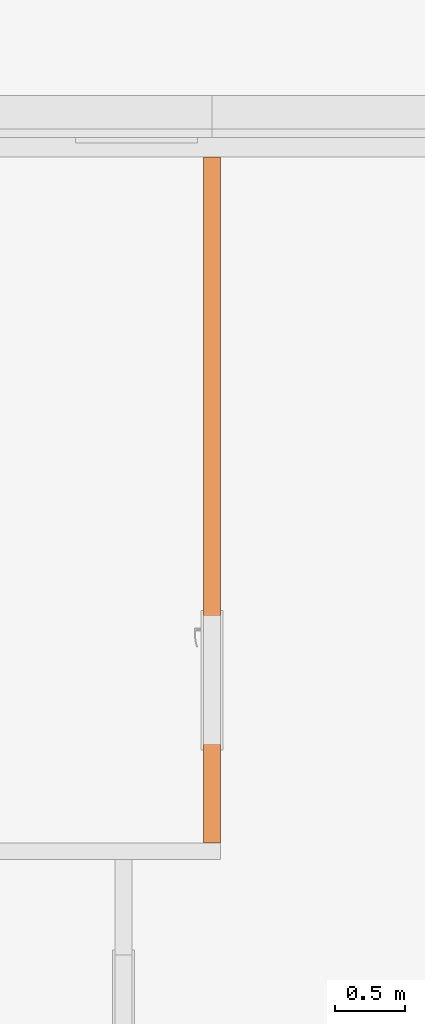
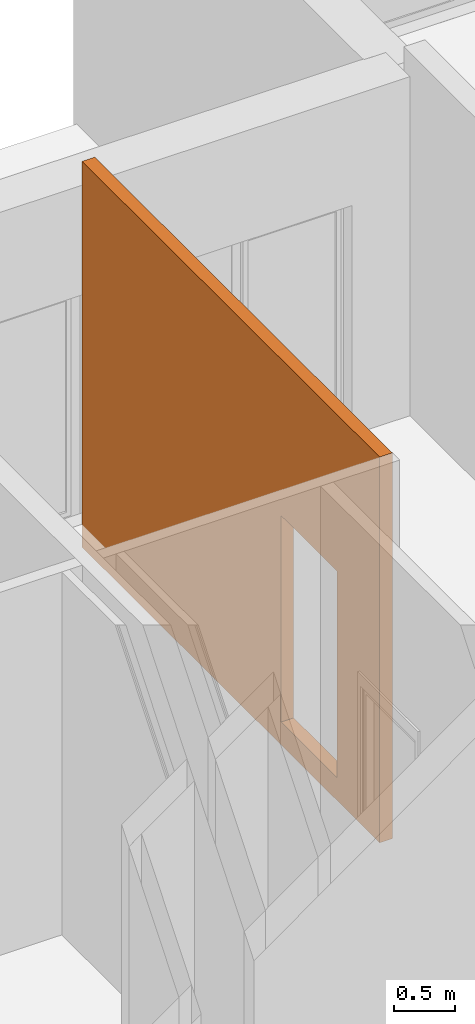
# One storey, part 22 of 46: 1 proxy, 1 opening.
"""IFC2X3 building model written with IfcOpenShell, lengths in millimetres."""

import ifcopenshell
import ifcopenshell.guid

model = None  # the IFC model being written
_history = None  # IfcOwnerHistory: only IFC2X3 demands one
_inside = {}  # id of a spatial element -> (the spatial element, [elements in it])
_under = {}  # id of a project, library or spatial element -> (it, [spatial elements below it])
_declared = {}  # id of a project -> (the project, [libraries it declares])
_typed = {}  # id of a type object -> (the type object, [elements of that type])
_made_of = {}  # id of a material, layer set ... -> (it, [elements and type objects made of it])


def new_model(schema):
    """Start an empty IFC model of exactly this schema.

    Asked for "IFC4X3", IfcOpenShell would pick the latest addendum, in which some entities
    have other attributes; the version numbers below select the first issue.
    IFC2X3 requires an IfcOwnerHistory on every rooted entity: one is made here for all.
    """
    global model, _history
    if schema == "IFC4X3":
        model = ifcopenshell.file(schema_version=(4, 3, 0, 0))
    else:
        model = ifcopenshell.file(schema=schema)
    _inside.clear()
    _under.clear()
    _declared.clear()
    _typed.clear()
    _made_of.clear()
    _history = None
    if model.schema == "IFC2X3":
        org = make("IfcOrganization", Name="unknown")
        user = make(
            "IfcPersonAndOrganization",
            ThePerson=make("IfcPerson", FamilyName="unknown"),
            TheOrganization=org,
        )
        app = make(
            "IfcApplication",
            ApplicationDeveloper=org,
            Version="unknown",
            ApplicationFullName="unknown",
            ApplicationIdentifier="unknown",
        )
        _history = make(
            "IfcOwnerHistory",
            OwningUser=user,
            OwningApplication=app,
            ChangeAction="ADDED",
            CreationDate=0,
        )
    return model


def make(cls, **values):
    """One entity of the class cls with the attributes given. An attribute that is None is left unset."""
    return model.create_entity(
        cls, **{name: value for name, value in values.items() if value is not None}
    )


def entity(cls, *values):
    """Any entity or typed value of the class cls, its attributes in the order of the schema. None: left unset."""
    e = model.create_entity(cls)
    for i, value in enumerate(values):
        if value is not None:
            e[i] = value
    return e


def rooted(cls, **values):
    """An entity with a GlobalId (a new one), such as an element, a storey or a relation."""
    return make(cls, GlobalId=ifcopenshell.guid.new(), OwnerHistory=_history, **values)


def si_unit(unit_type, name, prefix=None):
    """IfcSIUnit, for example si_unit("LENGTHUNIT", "METRE", prefix="MILLI")."""
    return make("IfcSIUnit", UnitType=unit_type, Prefix=prefix, Name=name)


def converted_unit(unit_type, name, factor, base, dimensions=None, offset=None):
    """IfcConversionBasedUnit, such as the inch: factor (a typed value) times the base unit."""
    return make(
        "IfcConversionBasedUnit"
        if offset is None
        else "IfcConversionBasedUnitWithOffset",
        ConversionOffset=offset,
        Dimensions=None
        if dimensions is None
        else entity("IfcDimensionalExponents", *dimensions),
        UnitType=unit_type,
        Name=name,
        ConversionFactor=make(
            "IfcMeasureWithUnit", ValueComponent=factor, UnitComponent=base
        ),
    )


def derived_unit(unit_type, elements):
    """IfcDerivedUnit: a product of units, each with its exponent."""
    return make(
        "IfcDerivedUnit",
        Elements=[
            make("IfcDerivedUnitElement", Unit=unit, Exponent=power)
            for unit, power in elements
        ],
        UnitType=unit_type,
    )


def money_unit(currency):
    """IfcMonetaryUnit."""
    return make("IfcMonetaryUnit", Currency=currency)


def assignment(units):
    """IfcUnitAssignment: the units of a project."""
    return None if units is None else make("IfcUnitAssignment", Units=units)


def point(xyz):
    """IfcCartesianPoint."""
    return None if xyz is None else make("IfcCartesianPoint", Coordinates=xyz)


def direction(xyz):
    """IfcDirection."""
    return None if xyz is None else make("IfcDirection", DirectionRatios=xyz)


def frame(location, z_axis=None, x_axis=None):
    """IfcAxis2Placement3D, a coordinate frame: its origin and axes. An axis left out is left unset."""
    return make(
        "IfcAxis2Placement3D",
        Location=point(location),
        Axis=direction(z_axis),
        RefDirection=direction(x_axis),
    )


def frame_2d(location, x_axis=None):
    """IfcAxis2Placement2D, a coordinate frame in the plane: its origin and x axis."""
    return make(
        "IfcAxis2Placement2D", Location=point(location), RefDirection=direction(x_axis)
    )


def origin_with_axes():
    """The frame at (0, 0, 0) with the z axis (0, 0, 1) and the x axis (1, 0, 0) written out."""
    return frame((0.0, 0.0, 0.0), z_axis=(0.0, 0.0, 1.0), x_axis=(1.0, 0.0, 0.0))


def origin_2d_with_axis():
    """The frame at (0, 0) in the plane with the x axis (1, 0) written out."""
    return frame_2d((0.0, 0.0), x_axis=(1.0, 0.0))


def place(relative_to, where):
    """IfcLocalPlacement: puts the frame where relative to a parent placement (None: the world)."""
    return make(
        "IfcLocalPlacement", PlacementRelTo=relative_to, RelativePlacement=where
    )


def context(
    kind, dimensions, precision=None, world=None, true_north=None, identifier=None
):
    """IfcGeometricRepresentationContext, for example the 3D "Model" context."""
    return make(
        "IfcGeometricRepresentationContext",
        ContextIdentifier=identifier,
        ContextType=kind,
        CoordinateSpaceDimension=dimensions,
        Precision=precision,
        WorldCoordinateSystem=world,
        TrueNorth=true_north,
    )


def subcontext(parent, identifier, kind, view, scale=None):
    """IfcGeometricRepresentationSubContext, for example "Body" below "Model"."""
    return make(
        "IfcGeometricRepresentationSubContext",
        ContextIdentifier=identifier,
        ContextType=kind,
        ParentContext=parent,
        TargetScale=scale,
        TargetView=view,
    )


def project(units=None, contexts=None):
    """IfcProject with its units and contexts."""
    return rooted(
        "IfcProject",
        Name="project",
        RepresentationContexts=contexts,
        UnitsInContext=assignment(units),
    )


def spatial(cls, under=None, at=None, **own):
    """A site, building, storey or space (cls), placed at a placement, below another one or the project."""
    s = rooted(cls, ObjectPlacement=at, **own)
    if under is not None:
        _under.setdefault(under.id(), (under, []))[1].append(s)
    return s


def profile(cls, at=None, kind="AREA", **sizes):
    """A parametric profile (cls). Its sizes go by their IFC names, for example OverallWidth=200.0."""
    return make(cls, ProfileType=kind, Position=at, **sizes)


def rectangle(**sizes):
    """IfcRectangleProfileDef."""
    return profile("IfcRectangleProfileDef", **sizes)


def extrude(swept, where, along, depth):
    """IfcExtrudedAreaSolid: the profile swept, set in the frame where, extruded along a direction by depth."""
    return make(
        "IfcExtrudedAreaSolid",
        SweptArea=swept,
        Position=where,
        ExtrudedDirection=direction(along),
        Depth=depth,
    )


def faces_of(points, faces, orient=None, outer=None):
    """IfcFace entities. A face is a list of loops; a loop is a list of indices into points, from 0.

    orient and outer hold one flag for each loop. By default every Orientation is true, the
    first loop of a face is its IfcFaceOuterBound and the others are IfcFaceBound.
    """
    made = []
    for i, loops in enumerate(faces):
        bounds = []
        for j, loop in enumerate(loops):
            is_outer = j == 0 if outer is None else outer[i][j]
            bounds.append(
                make(
                    "IfcFaceOuterBound" if is_outer else "IfcFaceBound",
                    Bound=make("IfcPolyLoop", Polygon=[points[k] for k in loop]),
                    Orientation=True if orient is None else orient[i][j],
                )
            )
        made.append(make("IfcFace", Bounds=bounds))
    return made


def faceted_brep(points, faces, orient=None, outer=None, voids=None):
    """IfcFacetedBrep: a solid bounded by flat faces; with voids (closed shells), ...WithVoids."""
    shared = [point(p) for p in points]
    hull = make("IfcClosedShell", CfsFaces=faces_of(shared, faces, orient, outer))
    if voids is None:
        return make("IfcFacetedBrep", Outer=hull)
    return make(
        "IfcFacetedBrepWithVoids",
        Outer=hull,
        Voids=[
            make(cls, CfsFaces=faces_of(shared, fs, o, b)) for cls, fs, o, b in voids
        ],
    )


def shape(context_of_items, identifier, shape_type, items):
    """IfcShapeRepresentation: the items that make up one representation, for example the "Body"."""
    return make(
        "IfcShapeRepresentation",
        ContextOfItems=context_of_items,
        RepresentationIdentifier=identifier,
        RepresentationType=shape_type,
        Items=items,
    )


def material(Name=None, Category=None):
    """IfcMaterial."""
    return make("IfcMaterial", Name=Name, Category=Category)


def made_of(thing, what):
    """Note that an element or type object is made of a material, layer set ...; save() writes the relation."""
    if what is not None:
        _made_of.setdefault(what.id(), (what, []))[1].append(thing)
    return thing


def type_object(cls, material=None, **own):
    """A type object (cls), such as IfcWallType, which elements share."""
    return made_of(rooted(cls, **own), material)


def element(
    cls,
    number,
    at=None,
    inside=None,
    cuts=None,
    type_object=None,
    material=None,
    context=None,
    identifier="Body",
    shape_type=None,
    held_by="IfcProductDefinitionShape",
    body=None,
    shapes=None,
    **own,
):
    """One element of the class cls, such as IfcWall. Its Tag is "e" and its number.

    at: its placement. inside: the storey or other place that contains it. cuts: it is an
    opening in that element (IfcRelVoidsElement). A single representation is given by context,
    identifier, shape_type and body (its items); several are given by shapes. held_by: the class
    of the entity that holds the representations. save() writes the other relations.
    """
    e = rooted(cls, Tag="e%d" % number, ObjectPlacement=at, **own)
    if body is not None:
        shapes = [shape(context, identifier, shape_type, body)]
    if shapes is not None:
        e.Representation = make(held_by, Representations=shapes)
    if inside is not None:
        _inside.setdefault(inside.id(), (inside, []))[1].append(e)
    if cuts is not None:
        rooted(
            "IfcRelVoidsElement", RelatingBuildingElement=cuts, RelatedOpeningElement=e
        )
    if type_object is not None:
        _typed.setdefault(type_object.id(), (type_object, []))[1].append(e)
    return made_of(e, material)


def aggregate(whole, parts):
    """IfcRelAggregates: a whole, such as a stair, and the parts it consists of."""
    return rooted("IfcRelAggregates", RelatingObject=whole, RelatedObjects=parts)


def save(model, path):
    """Write the relations noted so far, then the file.

    IfcRelAggregates (storeys below a building ...), IfcRelContainedInSpatialStructure (elements
    in a storey), IfcRelDefinesByType, IfcRelAssociatesMaterial and IfcRelDeclares: one each for
    every whole, place, type object, material and project.
    """
    for whole, parts in _under.values():
        aggregate(whole, parts)
    for where, things in _inside.values():
        rooted(
            "IfcRelContainedInSpatialStructure",
            RelatedElements=things,
            RelatingStructure=where,
        )
    for kind, things in _typed.values():
        rooted("IfcRelDefinesByType", RelatedObjects=things, RelatingType=kind)
    for what, things in _made_of.values():
        rooted("IfcRelAssociatesMaterial", RelatedObjects=things, RelatingMaterial=what)
    for by, libraries in _declared.values():
        rooted("IfcRelDeclares", RelatingContext=by, RelatedDefinitions=libraries)
    model.write(path)


model = new_model("IFC2X3")

# Units and contexts
model_context = context("Model", 3, precision=0.01, world=origin_with_axes(), true_north=direction((0.34421633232, 0.938890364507)))
body_context = subcontext(model_context, "Body", "Model", "MODEL_VIEW")
ifc_project = project(units=[si_unit("LENGTHUNIT", "METRE", prefix="MILLI"), si_unit("AREAUNIT", "SQUARE_METRE"), si_unit("VOLUMEUNIT", "CUBIC_METRE"), converted_unit("PLANEANGLEUNIT", "DEGREE", entity("IfcPlaneAngleMeasure", 0.0174532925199), si_unit("PLANEANGLEUNIT", "RADIAN"), dimensions=[0, 0, 0, 0, 0, 0, 0]), si_unit("SOLIDANGLEUNIT", "STERADIAN"), money_unit("USD"), converted_unit("TIMEUNIT", "Year", entity("IfcTimeMeasure", 31556926.0), si_unit("TIMEUNIT", "SECOND"), dimensions=[0, 0, 1, 0, 0, 0, 0]), si_unit("MASSUNIT", "GRAM", prefix="KILO"), si_unit("THERMODYNAMICTEMPERATUREUNIT", "DEGREE_CELSIUS"), si_unit("LUMINOUSINTENSITYUNIT", "LUMEN"), si_unit("ENERGYUNIT", "JOULE", prefix="MEGA"), derived_unit("THERMALCONDUCTANCEUNIT", [(si_unit("POWERUNIT", "WATT"), 1), (si_unit("LENGTHUNIT", "METRE"), -1), (si_unit("THERMODYNAMICTEMPERATUREUNIT", "KELVIN"), -1)]), derived_unit("SPECIFICHEATCAPACITYUNIT", [(si_unit("ENERGYUNIT", "JOULE"), 1), (si_unit("MASSUNIT", "GRAM", prefix="KILO"), -1), (si_unit("THERMODYNAMICTEMPERATUREUNIT", "KELVIN"), -1)]), derived_unit("MASSDENSITYUNIT", [(si_unit("MASSUNIT", "GRAM", prefix="KILO"), 1), (si_unit("VOLUMEUNIT", "CUBIC_METRE"), -1)])], contexts=[model_context])

# Site, building, storey
site_placement = place(None, origin_with_axes())
site = spatial("IfcSite", under=ifc_project, at=site_placement, Name="USTRONIE MORSKIE", CompositionType="ELEMENT")
building_placement = place(site_placement, origin_with_axes())
building = spatial("IfcBuilding", under=site, at=building_placement, Name="Budynek", CompositionType="ELEMENT")
storey_placement = place(building_placement, origin_with_axes())
storey = spatial("IfcBuildingStorey", under=building, at=storey_placement, Name="PARTER", CompositionType="ELEMENT", Elevation=0.0)

# Proxy, opening
ifc_material = material(Name="Bloczki silikatowe")
building_element_proxy_type = type_object("IfcBuildingElementProxyType", Name="Bloczki silikatowe 120", PredefinedType="NOTDEFINED")
proxy_placement = place(storey_placement, frame((376167.928052, 739651.199937, -230.0), z_axis=(0.0, 0.0, 1.0), x_axis=(0.0, 1.0, 0.0)))
proxy = element("IfcBuildingElementProxy", 1, at=proxy_placement, inside=storey, type_object=building_element_proxy_type, material=ifc_material, Name="SW-04", context=body_context, shape_type="Brep", body=[
    faceted_brep([(59.9999999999, -60.0, 0.0), (4949.99909883, -60.0, 0.0), (4949.99938474, -60.0, 3870.0), (59.9999999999, -60.0, 3870.0), (59.9999999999, 60.0, 0.0), (4949.99909883, 60.0, 0.0), (4949.99938474, 60.0, 3870.0), (59.9999999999, 60.0, 3870.0)], [[[0, 1, 2, 3]], [[4, 5, 1, 0]], [[2, 1, 5, 6]], [[3, 2, 6, 7]], [[4, 0, 3, 7]], [[6, 5, 4, 7]]]),
])
opening_placement = place(proxy_placement, frame((1220.0, 0.0, 230.0), z_axis=(0.0, 0.0, 1.0), x_axis=(1.0, 0.0, 0.0)))
element("IfcOpeningElement", 2, at=opening_placement, cuts=proxy, Name="Dw.3", context=body_context, shape_type="SweptSolid", body=[
    extrude(rectangle(XDim=920.0, YDim=2070.0, at=origin_2d_with_axis()), frame((0.0, 120.0, 1035.0), z_axis=(0.0, 1.0, 0.0), x_axis=(-1.0, 0.0, 0.0)), (0.0, 0.0, -1.0), 360.0),
    extrude(rectangle(XDim=994.0, YDim=2177.0, at=origin_2d_with_axis()), frame((0.0, 60.0, 1088.5), z_axis=(0.0, 1.0, 0.0), x_axis=(-1.0, 0.0, 0.0)), (0.0, 0.0, 1.0), 120.0),
    extrude(rectangle(XDim=994.0, YDim=2177.0, at=origin_2d_with_axis()), frame((0.0, -60.0, 1088.5), z_axis=(0.0, -1.0, 0.0), x_axis=(-1.0, 0.0, 0.0)), (0.0, 0.0, 1.0), 120.0),
])

save(model, "model.ifc")
